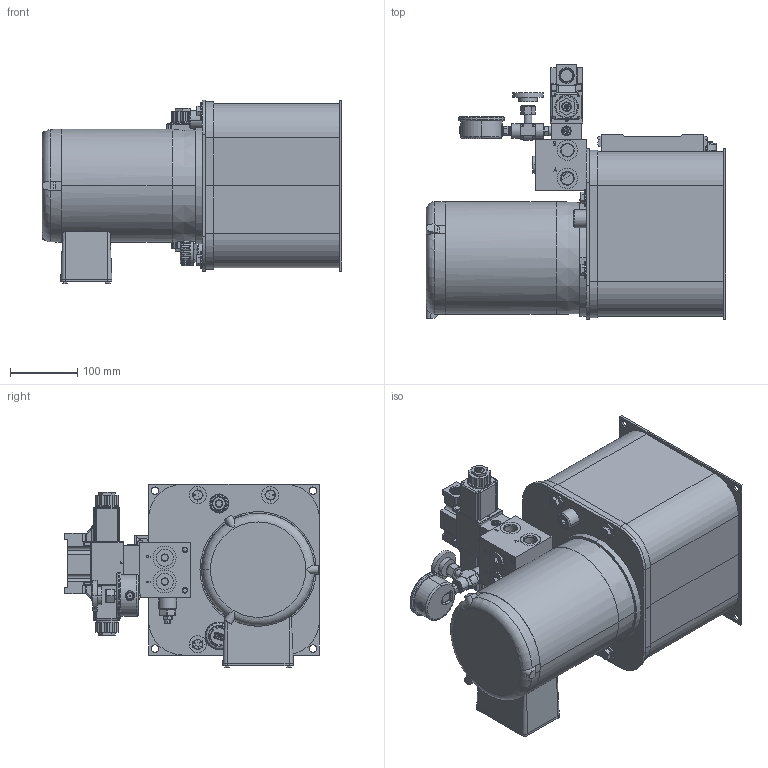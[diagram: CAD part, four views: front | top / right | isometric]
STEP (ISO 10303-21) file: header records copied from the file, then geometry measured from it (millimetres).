
FILE_DESCRIPTION (( 'STEP AP214' ), '1' );
FILE_NAME ('T2V-05-M-P1-XX-034.STEP', '2021-09-02T19:33:33', ( '' ), ( '' ), 'SwSTEP 2.0', 'SolidWorks 2020', '' );
FILE_SCHEMA (( 'AUTOMOTIVE_DESIGN' ));
Length unit declared in the file: inch
Products named in the file (1): T2V-05-M-P1-XX-034
Bounding box: 445.94 x 379.05 x 272.8 mm (x, y, z)
Surface area: 789597.2 mm2 (no closed solid volume)
Topology: 0 solids, 106 shells, 1168 faces, 5386 edges, 4230 vertices
Faces by surface type: plane 518, cylinder 341, cone 163, bspline 67, torus 51, sphere 28
Entity records: 95578 total; most frequent: CARTESIAN_POINT 39322, DIRECTION 7930, ORIENTED_EDGE 7649, EDGE_CURVE 5360, VERTEX_POINT 4230, VECTOR 3090, LINE 3090, AXIS2_PLACEMENT_3D 2420
